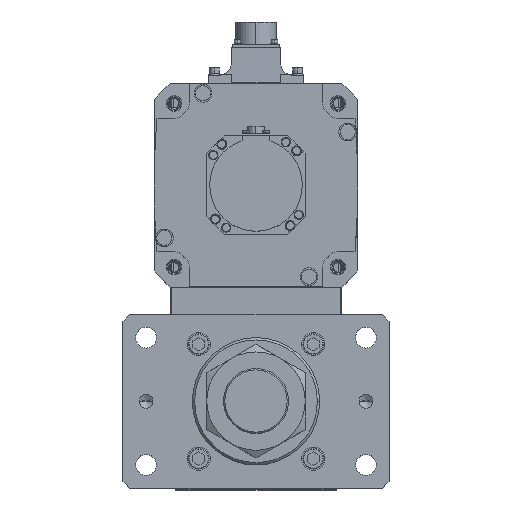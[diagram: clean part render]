
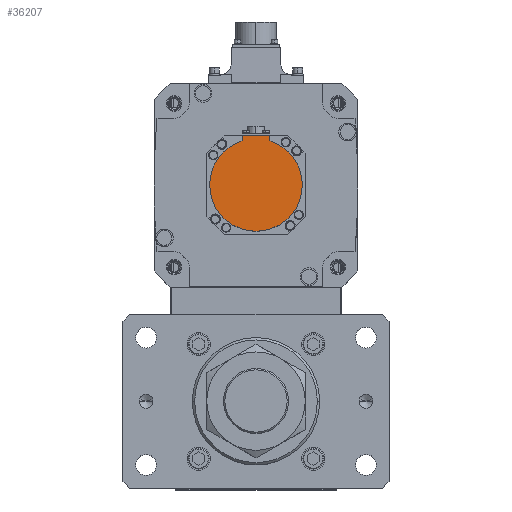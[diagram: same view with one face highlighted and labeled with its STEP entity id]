
A CAD part, top view. The second image highlights one B-rep face of the part: STEP entity #36207.
In plain terms, the highlighted planar face has unit normal (0, 0, 1) as drawn and (0, 0, -1) by its records, which use the part's own axes.
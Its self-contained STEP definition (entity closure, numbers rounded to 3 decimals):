
#1888 = VECTOR ( 'NONE', #3910, 1000. ) ;
#3910 = DIRECTION ( 'NONE',  ( 0., 1., 0. ) ) ;
#4435 = LINE ( 'NONE', #14337, #17151 ) ;
#5429 = EDGE_CURVE ( 'NONE', #18989, #11481, #24198, .T. ) ;
#5434 = AXIS2_PLACEMENT_3D ( 'NONE', #19310, #47978, #36040 ) ;
#6171 = CARTESIAN_POINT ( 'NONE',  ( -12., -42.5, -162.5 ) ) ;
#6823 = CARTESIAN_POINT ( 'NONE',  ( -12., -38.158, -162.5 ) ) ;
#9141 = CIRCLE ( 'NONE', #40594, 40. ) ;
#9445 = DIRECTION ( 'NONE',  ( 0., 0., 1. ) ) ;
#10148 = CARTESIAN_POINT ( 'NONE',  ( 0., 0., -162.5 ) ) ;
#10171 = CARTESIAN_POINT ( 'NONE',  ( 0., -1.249, -162.5 ) ) ;
#10354 = DIRECTION ( 'NONE',  ( 0., 0., 1. ) ) ;
#11152 = ORIENTED_EDGE ( 'NONE', *, *, #26077, .F. ) ;
#11481 = VERTEX_POINT ( 'NONE', #6823 ) ;
#12009 = EDGE_CURVE ( 'NONE', #36284, #18989, #9141, .T. ) ;
#12827 = DIRECTION ( 'NONE',  ( 1., 0., 0. ) ) ;
#13376 = LINE ( 'NONE', #20509, #1888 ) ;
#14053 = DIRECTION ( 'NONE',  ( 1., 0., 0. ) ) ;
#14337 = CARTESIAN_POINT ( 'NONE',  ( 0., -42.5, -162.5 ) ) ;
#14825 = CARTESIAN_POINT ( 'NONE',  ( -12., -40.329, -162.5 ) ) ;
#14867 = ORIENTED_EDGE ( 'NONE', *, *, #41259, .T. ) ;
#17151 = VECTOR ( 'NONE', #26661, 1000. ) ;
#17196 = ORIENTED_EDGE ( 'NONE', *, *, #51707, .T. ) ;
#17371 = VECTOR ( 'NONE', #22706, 1000. ) ;
#17619 = CARTESIAN_POINT ( 'NONE',  ( 12., -42.5, -162.5 ) ) ;
#18000 = LINE ( 'NONE', #14825, #17371 ) ;
#18989 = VERTEX_POINT ( 'NONE', #49931 ) ;
#19310 = CARTESIAN_POINT ( 'NONE',  ( 0., 0., -162.5 ) ) ;
#19337 = AXIS2_PLACEMENT_3D ( 'NONE', #10171, #10354, #42748 ) ;
#20509 = CARTESIAN_POINT ( 'NONE',  ( 12., -1.249, -162.5 ) ) ;
#21671 = EDGE_LOOP ( 'NONE', ( #14867, #52240, #30362, #29395, #11152, #17196 ) ) ;
#22706 = DIRECTION ( 'NONE',  ( 0., 1., 0. ) ) ;
#23712 = CARTESIAN_POINT ( 'NONE',  ( 40., 0., -162.5 ) ) ;
#24198 = CIRCLE ( 'NONE', #42691, 40. ) ;
#24408 = CIRCLE ( 'NONE', #5434, 40. ) ;
#26077 = EDGE_CURVE ( 'NONE', #38887, #28228, #13376, .T. ) ;
#26661 = DIRECTION ( 'NONE',  ( -1., 0., 0. ) ) ;
#27140 = PLANE ( 'NONE',  #19337 ) ;
#28228 = VERTEX_POINT ( 'NONE', #39346 ) ;
#29395 = ORIENTED_EDGE ( 'NONE', *, *, #41308, .F. ) ;
#30146 = FACE_OUTER_BOUND ( 'NONE', #21671, .T. ) ;
#30362 = ORIENTED_EDGE ( 'NONE', *, *, #12009, .F. ) ;
#34880 = VERTEX_POINT ( 'NONE', #6171 ) ;
#36040 = DIRECTION ( 'NONE',  ( 1., 0., 0. ) ) ;
#36207 = ADVANCED_FACE ( 'NONE', ( #30146 ), #27140, .F. ) ;
#36284 = VERTEX_POINT ( 'NONE', #23712 ) ;
#38887 = VERTEX_POINT ( 'NONE', #17619 ) ;
#39346 = CARTESIAN_POINT ( 'NONE',  ( 12., -38.158, -162.5 ) ) ;
#40594 = AXIS2_PLACEMENT_3D ( 'NONE', #49898, #9445, #12827 ) ;
#41259 = EDGE_CURVE ( 'NONE', #34880, #11481, #18000, .T. ) ;
#41308 = EDGE_CURVE ( 'NONE', #28228, #36284, #24408, .T. ) ;
#42691 = AXIS2_PLACEMENT_3D ( 'NONE', #10148, #42721, #14053 ) ;
#42721 = DIRECTION ( 'NONE',  ( 0., 0., 1. ) ) ;
#42748 = DIRECTION ( 'NONE',  ( 1., 0., 0. ) ) ;
#47978 = DIRECTION ( 'NONE',  ( 0., 0., 1. ) ) ;
#49898 = CARTESIAN_POINT ( 'NONE',  ( 0., 0., -162.5 ) ) ;
#49931 = CARTESIAN_POINT ( 'NONE',  ( -40., 0., -162.5 ) ) ;
#51707 = EDGE_CURVE ( 'NONE', #38887, #34880, #4435, .T. ) ;
#52240 = ORIENTED_EDGE ( 'NONE', *, *, #5429, .F. ) ;
